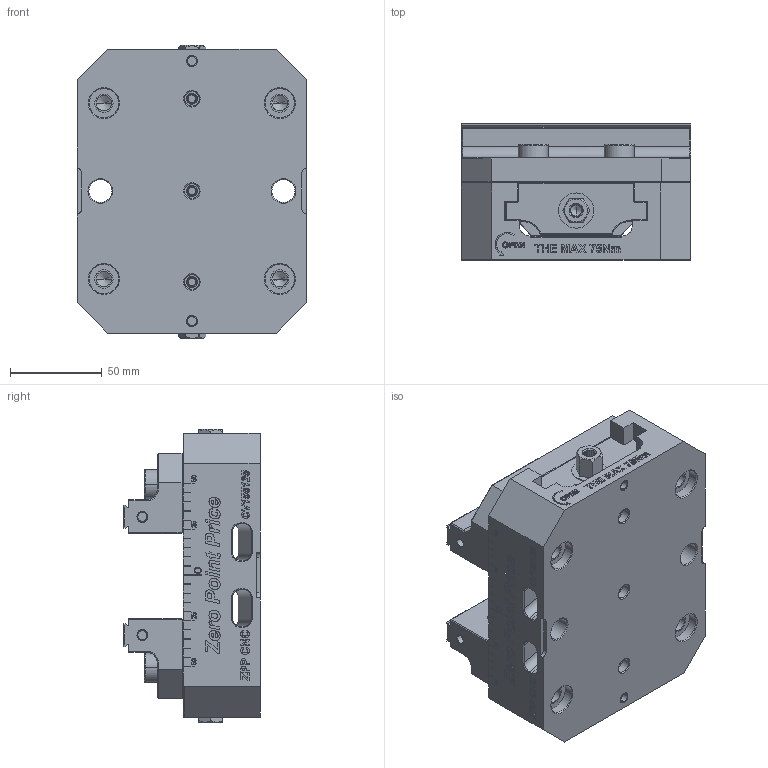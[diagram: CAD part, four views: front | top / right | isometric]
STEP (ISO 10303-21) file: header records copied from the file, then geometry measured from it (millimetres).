
FILE_DESCRIPTION((''),'2;1');
FILE_NAME('CV155125_ASM','2024-07-11T15:06:30',('XF'),(''),'CREO PARAMETRIC BY PTC INC, 2022073','CREO PARAMETRIC BY PTC INC, 2022073','');
FILE_SCHEMA(('CONFIG_CONTROL_DESIGN'));
Products named in the file (7): CV155125_1_92; CV155130_4_1; CV155130_2_52; CV155125_3; CV155125_2_10; M10X25; CV155125_ASM
Assembly tree (11 placements, depth 2):
  CV155125_ASM
    CV155125_1_92
    CV155130_4_1
    CV155130_2_52
    CV155125_3  x2
    CV155125_2_10  x2
    M10X25  x4
Bounding box: 125.15 x 74.4 x 160 mm (x, y, z)
Volume: 829320.2 mm3; surface area: 185671.7 mm2
Topology: 11 solids, 33 shells, 7862 faces, 21019 edges, 13926 vertices
Faces by surface type: plane 6656, extrusion 740, cylinder 274, cone 146, bspline 24, torus 22
Entity records: 167913 total; most frequent: CARTESIAN_POINT 37976, ORIENTED_EDGE 28382, DIRECTION 22879, EDGE_CURVE 14225, VECTOR 12779, LINE 12039, VERTEX_POINT 9452, EDGE_LOOP 5749
